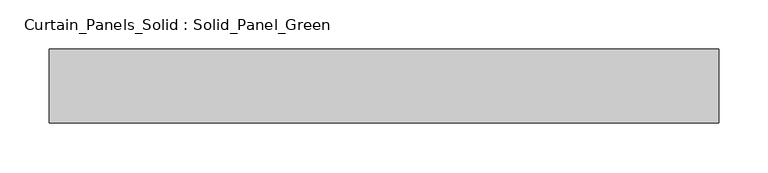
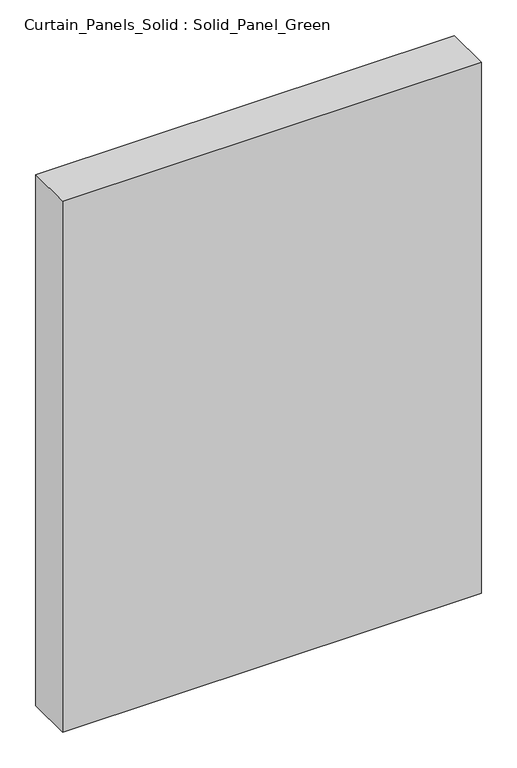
"""IFC4 building model written with IfcOpenShell, lengths in millimetres: plate geometry, Curtain_Panels_Solid : Solid_Panel_Green."""

import ifcopenshell
import ifcopenshell.guid

model = None  # the IFC model being written
_history = None  # IfcOwnerHistory: only IFC2X3 demands one
_inside = {}  # id of a spatial element -> (the spatial element, [elements in it])
_under = {}  # id of a project, library or spatial element -> (it, [spatial elements below it])
_declared = {}  # id of a project -> (the project, [libraries it declares])
_typed = {}  # id of a type object -> (the type object, [elements of that type])
_made_of = {}  # id of a material, layer set ... -> (it, [elements and type objects made of it])


def new_model(schema):
    """Start an empty IFC model of exactly this schema.

    Asked for "IFC4X3", IfcOpenShell would pick the latest addendum, in which some entities
    have other attributes; the version numbers below select the first issue.
    IFC2X3 requires an IfcOwnerHistory on every rooted entity: one is made here for all.
    """
    global model, _history
    if schema == "IFC4X3":
        model = ifcopenshell.file(schema_version=(4, 3, 0, 0))
    else:
        model = ifcopenshell.file(schema=schema)
    _inside.clear()
    _under.clear()
    _declared.clear()
    _typed.clear()
    _made_of.clear()
    _history = None
    if model.schema == "IFC2X3":
        org = make("IfcOrganization", Name="unknown")
        user = make(
            "IfcPersonAndOrganization",
            ThePerson=make("IfcPerson", FamilyName="unknown"),
            TheOrganization=org,
        )
        app = make(
            "IfcApplication",
            ApplicationDeveloper=org,
            Version="unknown",
            ApplicationFullName="unknown",
            ApplicationIdentifier="unknown",
        )
        _history = make(
            "IfcOwnerHistory",
            OwningUser=user,
            OwningApplication=app,
            ChangeAction="ADDED",
            CreationDate=0,
        )
    return model


def make(cls, **values):
    """One entity of the class cls with the attributes given. An attribute that is None is left unset."""
    return model.create_entity(
        cls, **{name: value for name, value in values.items() if value is not None}
    )


def rooted(cls, **values):
    """An entity with a GlobalId (a new one), such as an element, a storey or a relation."""
    return make(cls, GlobalId=ifcopenshell.guid.new(), OwnerHistory=_history, **values)


def si_unit(unit_type, name, prefix=None):
    """IfcSIUnit, for example si_unit("LENGTHUNIT", "METRE", prefix="MILLI")."""
    return make("IfcSIUnit", UnitType=unit_type, Prefix=prefix, Name=name)


def assignment(units):
    """IfcUnitAssignment: the units of a project."""
    return None if units is None else make("IfcUnitAssignment", Units=units)


def point(xyz):
    """IfcCartesianPoint."""
    return None if xyz is None else make("IfcCartesianPoint", Coordinates=xyz)


def direction(xyz):
    """IfcDirection."""
    return None if xyz is None else make("IfcDirection", DirectionRatios=xyz)


def frame(location, z_axis=None, x_axis=None):
    """IfcAxis2Placement3D, a coordinate frame: its origin and axes. An axis left out is left unset."""
    return make(
        "IfcAxis2Placement3D",
        Location=point(location),
        Axis=direction(z_axis),
        RefDirection=direction(x_axis),
    )


def origin():
    """The frame at (0, 0, 0) with its axes left unset."""
    return frame((0.0, 0.0, 0.0))


def origin_with_axes():
    """The frame at (0, 0, 0) with the z axis (0, 0, 1) and the x axis (1, 0, 0) written out."""
    return frame((0.0, 0.0, 0.0), z_axis=(0.0, 0.0, 1.0), x_axis=(1.0, 0.0, 0.0))


def place(relative_to, where):
    """IfcLocalPlacement: puts the frame where relative to a parent placement (None: the world)."""
    return make(
        "IfcLocalPlacement", PlacementRelTo=relative_to, RelativePlacement=where
    )


def context(
    kind, dimensions, precision=None, world=None, true_north=None, identifier=None
):
    """IfcGeometricRepresentationContext, for example the 3D "Model" context."""
    return make(
        "IfcGeometricRepresentationContext",
        ContextIdentifier=identifier,
        ContextType=kind,
        CoordinateSpaceDimension=dimensions,
        Precision=precision,
        WorldCoordinateSystem=world,
        TrueNorth=true_north,
    )


def project(units=None, contexts=None):
    """IfcProject with its units and contexts."""
    return rooted(
        "IfcProject",
        Name="project",
        RepresentationContexts=contexts,
        UnitsInContext=assignment(units),
    )


def spatial(cls, under=None, at=None, **own):
    """A site, building, storey or space (cls), placed at a placement, below another one or the project."""
    s = rooted(cls, ObjectPlacement=at, **own)
    if under is not None:
        _under.setdefault(under.id(), (under, []))[1].append(s)
    return s


def polyline(points):
    """IfcPolyline through the points."""
    return make("IfcPolyline", Points=[point(p) for p in points])


def outline(outer, holes=None, kind="AREA"):
    """IfcArbitraryClosedProfileDef: a profile drawn as a closed curve; with holes, ...WithVoids."""
    if holes is None:
        return make("IfcArbitraryClosedProfileDef", ProfileType=kind, OuterCurve=outer)
    return make(
        "IfcArbitraryProfileDefWithVoids",
        ProfileType=kind,
        OuterCurve=outer,
        InnerCurves=holes,
    )


def extrude(swept, where, along, depth):
    """IfcExtrudedAreaSolid: the profile swept, set in the frame where, extruded along a direction by depth."""
    return make(
        "IfcExtrudedAreaSolid",
        SweptArea=swept,
        Position=where,
        ExtrudedDirection=direction(along),
        Depth=depth,
    )


def shape(context_of_items, identifier, shape_type, items):
    """IfcShapeRepresentation: the items that make up one representation, for example the "Body"."""
    return make(
        "IfcShapeRepresentation",
        ContextOfItems=context_of_items,
        RepresentationIdentifier=identifier,
        RepresentationType=shape_type,
        Items=items,
    )


def source(mapping_origin, context_of_items, identifier, shape_type, items):
    """IfcRepresentationMap: a shape defined once, which mapped items show again and again."""
    return make(
        "IfcRepresentationMap",
        MappingOrigin=mapping_origin,
        MappedRepresentation=shape(context_of_items, identifier, shape_type, items),
    )


def transform(
    local_origin,
    x_axis=None,
    y_axis=None,
    z_axis=None,
    scale=None,
    scale2=None,
    scale3=None,
    uniform=True,
):
    """IfcCartesianTransformationOperator3D, or its non-uniform kind. x_axis, y_axis, z_axis: its Axis1, 2, 3."""
    if uniform:
        return make(
            "IfcCartesianTransformationOperator3D",
            Axis1=direction(x_axis),
            Axis2=direction(y_axis),
            LocalOrigin=point(local_origin),
            Scale=scale,
            Axis3=direction(z_axis),
        )
    return make(
        "IfcCartesianTransformationOperator3DnonUniform",
        Axis1=direction(x_axis),
        Axis2=direction(y_axis),
        LocalOrigin=point(local_origin),
        Scale=scale,
        Axis3=direction(z_axis),
        Scale2=scale2,
        Scale3=scale3,
    )


def mapped(mapping_source, mapping_target):
    """IfcMappedItem: shows the shape of a source again, moved by a transform."""
    return make(
        "IfcMappedItem", MappingSource=mapping_source, MappingTarget=mapping_target
    )


def made_of(thing, what):
    """Note that an element or type object is made of a material, layer set ...; save() writes the relation."""
    if what is not None:
        _made_of.setdefault(what.id(), (what, []))[1].append(thing)
    return thing


def element(
    cls,
    number,
    at=None,
    inside=None,
    cuts=None,
    type_object=None,
    material=None,
    context=None,
    identifier="Body",
    shape_type=None,
    held_by="IfcProductDefinitionShape",
    body=None,
    shapes=None,
    **own,
):
    """One element of the class cls, such as IfcWall. Its Tag is "e" and its number.

    at: its placement. inside: the storey or other place that contains it. cuts: it is an
    opening in that element (IfcRelVoidsElement). A single representation is given by context,
    identifier, shape_type and body (its items); several are given by shapes. held_by: the class
    of the entity that holds the representations. save() writes the other relations.
    """
    e = rooted(cls, Tag="e%d" % number, ObjectPlacement=at, **own)
    if body is not None:
        shapes = [shape(context, identifier, shape_type, body)]
    if shapes is not None:
        e.Representation = make(held_by, Representations=shapes)
    if inside is not None:
        _inside.setdefault(inside.id(), (inside, []))[1].append(e)
    if cuts is not None:
        rooted(
            "IfcRelVoidsElement", RelatingBuildingElement=cuts, RelatedOpeningElement=e
        )
    if type_object is not None:
        _typed.setdefault(type_object.id(), (type_object, []))[1].append(e)
    return made_of(e, material)


def aggregate(whole, parts):
    """IfcRelAggregates: a whole, such as a stair, and the parts it consists of."""
    return rooted("IfcRelAggregates", RelatingObject=whole, RelatedObjects=parts)


def save(model, path):
    """Write the relations noted so far, then the file.

    IfcRelAggregates (storeys below a building ...), IfcRelContainedInSpatialStructure (elements
    in a storey), IfcRelDefinesByType, IfcRelAssociatesMaterial and IfcRelDeclares: one each for
    every whole, place, type object, material and project.
    """
    for whole, parts in _under.values():
        aggregate(whole, parts)
    for where, things in _inside.values():
        rooted(
            "IfcRelContainedInSpatialStructure",
            RelatedElements=things,
            RelatingStructure=where,
        )
    for kind, things in _typed.values():
        rooted("IfcRelDefinesByType", RelatedObjects=things, RelatingType=kind)
    for what, things in _made_of.values():
        rooted("IfcRelAssociatesMaterial", RelatedObjects=things, RelatingMaterial=what)
    for by, libraries in _declared.values():
        rooted("IfcRelDeclares", RelatingContext=by, RelatedDefinitions=libraries)
    model.write(path)


def curtain_panels_solid_solid_panel_green_ddb93bc4(model_context):
    return source(origin(), model_context, "Body", "SweptSolid", [
        extrude(outline(polyline([(338.7500001, -25.0), (-338.7500001, -25.0), (-338.7500001, 50.0), (338.7500001, 50.0), (338.7500001, -25.0)])), origin_with_axes(), (0.0, 0.0, 1.0), 907.5),
    ])


if __name__ == "__main__":
    model = new_model("IFC4")
    model_context = context("Model", 3, world=origin())
    ifc_project = project(units=[si_unit("LENGTHUNIT", "METRE", prefix="MILLI")], contexts=[model_context])
    site = spatial("IfcSite", under=ifc_project)
    building = spatial("IfcBuilding", under=site)
    placement = place(None, origin())
    curtain_panels_solid_solid_panel_green_shape = curtain_panels_solid_solid_panel_green_ddb93bc4(model_context)
    element("IfcPlate", 1, ObjectType="Curtain_Panels_Solid : Solid_Panel_Green", at=placement, inside=building, context=model_context, shape_type="MappedRepresentation", body=[
        mapped(curtain_panels_solid_solid_panel_green_shape, transform((0.0, 0.0, 0.0), x_axis=(1.0, 0.0, 0.0), y_axis=(0.0, 1.0, 0.0), z_axis=(0.0, 0.0, 1.0))),
    ])
    save(model, "model.ifc")
